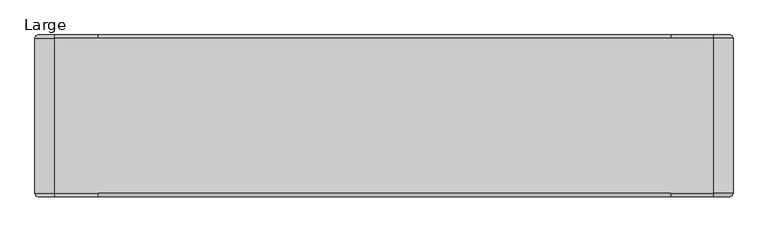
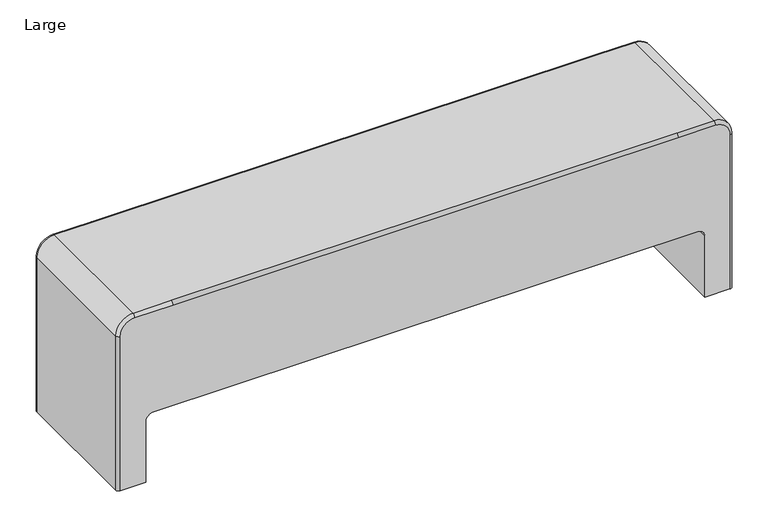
"""IFC4 building model written with IfcOpenShell, lengths in millimetres: furniture geometry, Steelcase Coalesse - Davos - Seating - Bench : Large."""

from ifc_helpers import new_model, si_unit, point, frame, frame_2d, origin, origin_with_axes, place, context, project, spatial, polyline, circle_curve, ellipse_curve, trimmed, segment, composite_curve, outline, extrude, source, transform, mapped, element, save
from ifc_brep_helpers import plane_surface, cylinder_surface, revolved_surface, advanced_brep


def large_22a922e8(model_context):
    return source(origin(), model_context, "Body", "SolidModel", [
        extrude(outline(composite_curve([segment(trimmed(circle_curve(frame_2d((-619.0274767, 196.051701)), 5.08), [point((-619.0274767, 201.131701))], [point((-613.9474767, 196.051701))], False, "CARTESIAN"), True, "CONTINUOUS"), segment(polyline([(-613.9474767, 196.051701), (-613.9474767, 155.411701)]), True, "CONTINUOUS"), segment(trimmed(circle_curve(frame_2d((-619.0274767, 155.411701)), 5.08), [point((-613.9474767, 155.411701))], [point((-619.0274767, 150.331701))], False, "CARTESIAN"), True, "CONTINUOUS"), segment(polyline([(-619.0274767, 150.331701), (-634.2621476, 150.331701)]), True, "CONTINUOUS"), segment(trimmed(circle_curve(frame_2d((-634.2621476, 155.411701)), 5.08), [point((-634.2621476, 150.331701))], [point((-639.3421476, 155.411701))], False, "CARTESIAN"), True, "CONTINUOUS"), segment(polyline([(-639.3421476, 155.411701), (-639.3421476, 196.051701)]), True, "CONTINUOUS"), segment(trimmed(circle_curve(frame_2d((-634.2621476, 196.051701)), 5.08), [point((-639.3421476, 196.051701))], [point((-634.2621476, 201.131701))], False, "CARTESIAN"), True, "CONTINUOUS"), segment(polyline([(-634.2621476, 201.131701), (-619.0274767, 201.131701)]), True, "CONTINUOUS")], self_intersect=False)), origin_with_axes(), (0.0, 0.0, 1.0), 3.4040124),
        extrude(outline(composite_curve([segment(trimmed(circle_curve(frame_2d((-619.0274767, -81.4021908)), 5.08), [point((-619.0274767, -76.3221908))], [point((-613.9474767, -81.4021908))], False, "CARTESIAN"), True, "CONTINUOUS"), segment(polyline([(-613.9474767, -81.4021908), (-613.9474767, -122.0421908)]), True, "CONTINUOUS"), segment(trimmed(circle_curve(frame_2d((-619.0274767, -122.0421908)), 5.08), [point((-613.9474767, -122.0421908))], [point((-619.0274767, -127.1221908))], False, "CARTESIAN"), True, "CONTINUOUS"), segment(polyline([(-619.0274767, -127.1221908), (-634.2621476, -127.1221908)]), True, "CONTINUOUS"), segment(trimmed(circle_curve(frame_2d((-634.2621476, -122.0421908)), 5.08), [point((-634.2621476, -127.1221908))], [point((-639.3421476, -122.0421908))], False, "CARTESIAN"), True, "CONTINUOUS"), segment(polyline([(-639.3421476, -122.0421908), (-639.3421476, -81.4021908)]), True, "CONTINUOUS"), segment(trimmed(circle_curve(frame_2d((-634.2621476, -81.4021908)), 5.08), [point((-639.3421476, -81.4021908))], [point((-634.2621476, -76.3221908))], False, "CARTESIAN"), True, "CONTINUOUS"), segment(polyline([(-634.2621476, -76.3221908), (-619.0274767, -76.3221908)]), True, "CONTINUOUS")], self_intersect=False)), origin_with_axes(), (0.0, 0.0, 1.0), 3.4040124),
        extrude(outline(composite_curve([segment(trimmed(circle_curve(frame_2d((818.8236579, 196.051701)), 5.08), [point((818.8236579, 201.131701))], [point((823.9036579, 196.051701))], False, "CARTESIAN"), True, "CONTINUOUS"), segment(polyline([(823.9036579, 196.051701), (823.9036579, 155.411701)]), True, "CONTINUOUS"), segment(trimmed(circle_curve(frame_2d((818.8236579, 155.411701)), 5.08), [point((823.9036579, 155.411701))], [point((818.8236579, 150.331701))], False, "CARTESIAN"), True, "CONTINUOUS"), segment(polyline([(818.8236579, 150.331701), (803.5889871, 150.331701)]), True, "CONTINUOUS"), segment(trimmed(circle_curve(frame_2d((803.5889871, 155.411701)), 5.08), [point((803.5889871, 150.331701))], [point((798.5089871, 155.411701))], False, "CARTESIAN"), True, "CONTINUOUS"), segment(polyline([(798.5089871, 155.411701), (798.5089871, 196.051701)]), True, "CONTINUOUS"), segment(trimmed(circle_curve(frame_2d((803.5889871, 196.051701)), 5.08), [point((798.5089871, 196.051701))], [point((803.5889871, 201.131701))], False, "CARTESIAN"), True, "CONTINUOUS"), segment(polyline([(803.5889871, 201.131701), (818.8236579, 201.131701)]), True, "CONTINUOUS")], self_intersect=False)), origin_with_axes(), (0.0, 0.0, 1.0), 3.4040124),
        extrude(outline(composite_curve([segment(trimmed(circle_curve(frame_2d((818.8236579, -81.4021908)), 5.08), [point((818.8236579, -76.3221908))], [point((823.9036579, -81.4021908))], False, "CARTESIAN"), True, "CONTINUOUS"), segment(polyline([(823.9036579, -81.4021908), (823.9036579, -122.0421908)]), True, "CONTINUOUS"), segment(trimmed(circle_curve(frame_2d((818.8236579, -122.0421908)), 5.08), [point((823.9036579, -122.0421908))], [point((818.8236579, -127.1221908))], False, "CARTESIAN"), True, "CONTINUOUS"), segment(polyline([(818.8236579, -127.1221908), (803.5889871, -127.1221908)]), True, "CONTINUOUS"), segment(trimmed(circle_curve(frame_2d((803.5889871, -122.0421908)), 5.08), [point((803.5889871, -127.1221908))], [point((798.5089871, -122.0421908))], False, "CARTESIAN"), True, "CONTINUOUS"), segment(polyline([(798.5089871, -122.0421908), (798.5089871, -81.4021908)]), True, "CONTINUOUS"), segment(trimmed(circle_curve(frame_2d((803.5889871, -81.4021908)), 5.08), [point((798.5089871, -81.4021908))], [point((803.5889871, -76.3221908))], False, "CARTESIAN"), True, "CONTINUOUS"), segment(polyline([(803.5889871, -76.3221908), (818.8236579, -76.3221908)]), True, "CONTINUOUS")], self_intersect=False)), origin_with_axes(), (0.0, 0.0, 1.0), 3.4040124),
        advanced_brep(
        [(-574.5619104, 211.4525251, 180.1955599), (-593.6119104, 211.4525251, 161.1455599), (-593.6119104, 211.4525251, 3.4040124), (-655.9944896, 211.4525251, 3.4040124), (-655.9944896, 211.4525251, 404.0231514), (-620.4343177, 211.4525251, 439.5833234), (-526.2304682, 211.4525251, 439.5833234), (712.8696242, 211.4525251, 439.5833234), (804.202078, 211.4525251, 439.5833234), (839.76225, 211.4525251, 404.0231514), (839.76225, 211.4525251, 3.4040124), (778.1734208, 211.4525251, 3.4040124), (778.1734208, 211.4525251, 161.1455599), (759.1234208, 211.4525251, 180.1955599), (759.1234208, -138.4442299, 180.1955599), (778.1734208, -138.4442299, 161.1455599), (778.1734208, -138.4442299, 3.4040124), (839.76225, -138.4442299, 3.4040124), (839.76225, -138.4442299, 404.0231514), (804.202078, -138.4442299, 439.5833234), (712.8696242, -138.4442299, 439.5833234), (-526.2304682, -138.4442299, 439.5833234), (-620.4343177, -138.4442299, 439.5833234), (-655.9944896, -138.4442299, 404.0231514), (-655.9944896, -138.4442299, 3.4040124), (-593.6119104, -138.4442299, 3.4040124), (-593.6119104, -138.4442299, 161.1455599), (-574.5619104, -138.4442299, 180.1955599), (712.8696242, -130.8242299, 447.2033234), (-526.2304682, -130.8242299, 447.2033234), (804.202078, -130.8242299, 447.2033234), (804.202078, 203.8325251, 447.2033234), (712.8696242, 203.8325251, 447.2033234), (-526.2304682, 203.8325251, 447.2033234), (-620.4343177, 203.8325251, 447.2033234), (-620.4343177, -130.8242299, 447.2033234), (847.38225, -130.8242299, 404.0231514), (847.38225, 203.8325251, 404.0231514), (847.38225, 203.8325251, 3.4040124), (847.38225, -130.8242299, 3.4040124), (-663.6144896, 203.8325251, 404.0231514), (-663.6144896, -130.8242299, 404.0231514), (-663.6144896, -130.8242299, 3.4040124), (-663.6144896, 203.8325251, 3.4040124)],
        [
            (0, 1, circle_curve(frame((-574.5619104, 211.4525251, 161.1455599), z_axis=(0.0, -1.0, 0.0), x_axis=(1.0, 0.0, 0.0)), 19.05)),
            (1, 2),
            (2, 3),
            (3, 4),
            (4, 5, circle_curve(frame((-620.4343177, 211.4525251, 404.0231514), z_axis=(0.0, 1.0, 0.0), x_axis=(0.0, 0.0, 1.0)), 35.560172)),
            (5, 6),
            (6, 7),
            (7, 8),
            (8, 9, circle_curve(frame((804.202078, 211.4525251, 404.0231514), z_axis=(0.0, 1.0, 0.0), x_axis=(0.0, 0.0, 1.0)), 35.560172)),
            (9, 10),
            (10, 11),
            (11, 12),
            (12, 13, circle_curve(frame((759.1234208, 211.4525251, 161.1455599), z_axis=(0.0, -1.0, 0.0), x_axis=(1.0, 0.0, 0.0)), 19.05)),
            (13, 0),
            (14, 15, circle_curve(frame((759.1234208, -138.4442299, 161.1455599), z_axis=(0.0, 1.0, 0.0), x_axis=(1.0, 0.0, 0.0)), 19.05)),
            (15, 16),
            (16, 17),
            (17, 18),
            (18, 19, circle_curve(frame((804.202078, -138.4442299, 404.0231514), z_axis=(0.0, -1.0, 0.0), x_axis=(0.0, 0.0, 1.0)), 35.560172)),
            (19, 20),
            (20, 21),
            (21, 22),
            (22, 23, circle_curve(frame((-620.4343177, -138.4442299, 404.0231514), z_axis=(0.0, -1.0, 0.0), x_axis=(0.0, 0.0, 1.0)), 35.560172)),
            (23, 24),
            (24, 25),
            (25, 26),
            (26, 27, circle_curve(frame((-574.5619104, -138.4442299, 161.1455599), z_axis=(0.0, 1.0, 0.0), x_axis=(1.0, 0.0, 0.0)), 19.05)),
            (27, 14),
            (13, 14),
            (27, 0),
            (20, 28, circle_curve(frame((712.8696242, -130.8242299, 439.5833234), z_axis=(-1.0, 0.0, 0.0), x_axis=(0.0, 0.0, 1.0)), 7.62)),
            (28, 29),
            (29, 21, circle_curve(frame((-526.2304682, -130.8242299, 439.5833234), z_axis=(1.0, 0.0, 0.0), x_axis=(0.0, 0.0, 1.0)), 7.62)),
            (28, 30),
            (30, 31),
            (31, 32),
            (32, 33),
            (33, 34),
            (34, 35),
            (35, 29),
            (32, 7, circle_curve(frame((712.8696242, 203.8325251, 439.5833234), z_axis=(-1.0, 0.0, 0.0), x_axis=(0.0, 0.0, 1.0)), 7.62)),
            (6, 33, circle_curve(frame((-526.2304682, 203.8325251, 439.5833234), z_axis=(1.0, 0.0, 0.0), x_axis=(0.0, 0.0, 1.0)), 7.62)),
            (19, 30, circle_curve(frame((804.202078, -130.8242299, 439.5833234), z_axis=(-1.0, 0.0, 0.0), x_axis=(0.0, 0.0, -1.0)), 7.62)),
            (31, 8, circle_curve(frame((804.202078, 203.8325251, 439.5833234), z_axis=(-1.0, 0.0, 0.0), x_axis=(0.0, 0.0, -1.0)), 7.62)),
            (18, 36, circle_curve(frame((839.76225, -130.8242299, 404.0231514), z_axis=(0.0, 0.0, 1.0), x_axis=(-1.0, 0.0, 0.0)), 7.62)),
            (36, 30, circle_curve(frame((804.202078, -130.8242299, 404.0231514), z_axis=(0.0, -1.0, 0.0), x_axis=(0.0, 0.0, 1.0)), 43.180172)),
            (36, 37),
            (37, 31, circle_curve(frame((804.202078, 203.8325251, 404.0231514), z_axis=(0.0, -1.0, 0.0), x_axis=(0.0, 0.0, 1.0)), 43.180172)),
            (37, 9, circle_curve(frame((839.76225, 203.8325251, 404.0231514), z_axis=(0.0, 0.0, 1.0), x_axis=(-1.0, 0.0, 0.0)), 7.62)),
            (16, 11),
            (10, 38, circle_curve(frame((839.76225, 203.8325251, 3.4040124), z_axis=(0.0, 0.0, -1.0), x_axis=(-1.0, 0.0, 0.0)), 7.62)),
            (38, 39),
            (39, 17, circle_curve(frame((839.76225, -130.8242299, 3.4040124), z_axis=(0.0, 0.0, -1.0), x_axis=(-1.0, 0.0, 0.0)), 7.62)),
            (39, 36),
            (38, 37),
            (5, 34, circle_curve(frame((-620.4343177, 203.8325251, 439.5833234), z_axis=(1.0, 0.0, 0.0), x_axis=(0.0, 0.0, 1.0)), 7.62)),
            (35, 22, circle_curve(frame((-620.4343177, -130.8242299, 439.5833234), z_axis=(1.0, 0.0, 0.0), x_axis=(0.0, 0.0, 1.0)), 7.62)),
            (4, 40, circle_curve(frame((-655.9944896, 203.8325251, 404.0231514), z_axis=(0.0, 0.0, 1.0), x_axis=(-1.0, 0.0, 0.0)), 7.62)),
            (40, 34, circle_curve(frame((-620.4343177, 203.8325251, 404.0231514), z_axis=(0.0, 1.0, 0.0), x_axis=(0.0, 0.0, 1.0)), 43.180172)),
            (40, 41),
            (41, 35, circle_curve(frame((-620.4343177, -130.8242299, 404.0231514), z_axis=(0.0, 1.0, 0.0), x_axis=(0.0, 0.0, 1.0)), 43.180172)),
            (41, 23, circle_curve(frame((-655.9944896, -130.8242299, 404.0231514), z_axis=(0.0, 0.0, 1.0), x_axis=(-1.0, 0.0, 0.0)), 7.62)),
            (2, 25),
            (24, 42, circle_curve(frame((-655.9944896, -130.8242299, 3.4040124), z_axis=(0.0, 0.0, -1.0), x_axis=(-1.0, 0.0, 0.0)), 7.62)),
            (42, 43),
            (43, 3, circle_curve(frame((-655.9944896, 203.8325251, 3.4040124), z_axis=(0.0, 0.0, -1.0), x_axis=(-1.0, 0.0, 0.0)), 7.62)),
            (43, 40),
            (42, 41),
            (26, 1),
            (15, 12),
        ],
        [
            plane_surface(frame((712.8696242, 211.4525251, 437.6781514), z_axis=(0.0, 1.0, 0.0), x_axis=(0.0, 0.0, -1.0))),
            plane_surface(frame((712.8696242, -138.4442299, 437.6781514), z_axis=(0.0, -1.0, 0.0), x_axis=(0.0, 0.0, 1.0))),
            plane_surface(frame((712.8696242, 211.4525251, 180.1955599), z_axis=(0.0, 0.0, -1.0), x_axis=(0.0, -1.0, 0.0))),
            cylinder_surface(frame((712.8696242, -130.8242299, 439.5833234), z_axis=(-1.0, 0.0, 0.0), x_axis=(0.0, 0.0, 1.0)), 7.62),
            plane_surface(frame((-526.2304682, -130.8242299, 447.2033234), z_axis=(0.0, 0.0, 1.0), x_axis=(1.0, 0.0, 0.0))),
            cylinder_surface(frame((712.8696242, 203.8325251, 439.5833234), z_axis=(-1.0, 0.0, 0.0), x_axis=(0.0, 0.0, 1.0)), 7.62),
            cylinder_surface(frame((712.8696242, -130.8242299, 439.5833234), z_axis=(-1.0, 0.0, 0.0), x_axis=(0.0, 0.0, -1.0)), 7.62),
            cylinder_surface(frame((712.8696242, 203.8325251, 439.5833234), z_axis=(-1.0, 0.0, 0.0), x_axis=(0.0, 0.0, -1.0)), 7.62),
            revolved_surface(trimmed(ellipse_curve(frame((804.202078, -130.8242299, 439.5833234), z_axis=(-1.0, 0.0, 0.0), x_axis=(0.0, 0.0, -1.0)), 7.62, 7.62), [point((804.202078, -138.4442299, 439.5833234))], [point((804.202078, -130.8242299, 447.2033234))], True, "CARTESIAN"), (804.202078, 228.8781826, 404.0231514), (0.0, 1.0, 0.0)),
            cylinder_surface(frame((804.202078, 228.8781826, 404.0231514), z_axis=(0.0, 1.0, 0.0), x_axis=(0.0, 0.0, 1.0)), 43.180172),
            revolved_surface(trimmed(ellipse_curve(frame((804.202078, 203.8325251, 439.5833234), z_axis=(-1.0, 0.0, 0.0), x_axis=(0.0, 0.0, -1.0)), 7.62, 7.62), [point((804.202078, 203.8325251, 447.2033234))], [point((804.202078, 211.4525251, 439.5833234))], True, "CARTESIAN"), (804.202078, 228.8781826, 404.0231514), (0.0, 1.0, 0.0)),
            plane_surface(frame((834.682078, 228.8781826, 3.4040124), z_axis=(0.0, 0.0, -1.0), x_axis=(0.0, 1.0, 0.0))),
            cylinder_surface(frame((839.76225, -130.8242299, 404.0231514), z_axis=(0.0, 0.0, 1.0), x_axis=(-1.0, 0.0, 0.0)), 7.62),
            plane_surface(frame((847.38225, -130.8242299, 404.0231514), z_axis=(1.0, 0.0, 0.0), x_axis=(0.0, 0.0, -1.0))),
            cylinder_surface(frame((839.76225, 203.8325251, 404.0231514), z_axis=(0.0, 0.0, 1.0), x_axis=(-1.0, 0.0, 0.0)), 7.62),
            cylinder_surface(frame((-526.2304682, 203.8325251, 439.5833234), z_axis=(1.0, 0.0, 0.0), x_axis=(0.0, 0.0, 1.0)), 7.62),
            cylinder_surface(frame((-526.2304682, -130.8242299, 439.5833234), z_axis=(1.0, 0.0, 0.0), x_axis=(0.0, 0.0, 1.0)), 7.62),
            revolved_surface(trimmed(ellipse_curve(frame((-620.4343177, 203.8325251, 439.5833234), z_axis=(1.0, 0.0, 0.0), x_axis=(0.0, 0.0, 1.0)), 7.62, 7.62), [point((-620.4343177, 211.4525251, 439.5833234))], [point((-620.4343177, 203.8325251, 447.2033234))], True, "CARTESIAN"), (-620.4343177, 228.8781826, 404.0231514), (0.0, -1.0, 0.0)),
            cylinder_surface(frame((-620.4343177, 228.8781826, 404.0231514), z_axis=(0.0, -1.0, 0.0), x_axis=(0.0, 0.0, 1.0)), 43.180172),
            revolved_surface(trimmed(ellipse_curve(frame((-620.4343177, -130.8242299, 439.5833234), z_axis=(1.0, 0.0, 0.0), x_axis=(0.0, 0.0, 1.0)), 7.62, 7.62), [point((-620.4343177, -130.8242299, 447.2033234))], [point((-620.4343177, -138.4442299, 439.5833234))], True, "CARTESIAN"), (-620.4343177, 228.8781826, 404.0231514), (0.0, -1.0, 0.0)),
            plane_surface(frame((-650.9143177, 228.8781826, 3.4040124), z_axis=(0.0, 0.0, -1.0), x_axis=(0.0, 1.0, 0.0))),
            cylinder_surface(frame((-655.9944896, 203.8325251, 404.0231514), z_axis=(0.0, 0.0, 1.0), x_axis=(-1.0, 0.0, 0.0)), 7.62),
            plane_surface(frame((-663.6144896, 203.8325251, 404.0231514), z_axis=(-1.0, 0.0, 0.0), x_axis=(0.0, 0.0, -1.0))),
            cylinder_surface(frame((-655.9944896, -130.8242299, 404.0231514), z_axis=(0.0, 0.0, 1.0), x_axis=(-1.0, 0.0, 0.0)), 7.62),
            revolved_surface(polyline([(-555.5119104, -138.4442299, 161.1455599), (-555.5119104, 211.45252509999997, 161.1455599)]), (-574.5619104, -138.4442299, 161.1455599), (0.0, -1.0, 0.0)),
            plane_surface(frame((-593.6119104, 211.4525251, 161.1455599), z_axis=(1.0, 0.0, 0.0), x_axis=(0.0, -1.0, 0.0))),
            plane_surface(frame((778.1734208, 211.4525251, 3.4040124), z_axis=(-1.0, 0.0, 0.0), x_axis=(0.0, -1.0, 0.0))),
            revolved_surface(polyline([(778.1734207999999, -138.44422989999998, 161.1455599), (778.1734207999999, 211.4525251, 161.1455599)]), (759.1234208, 216.2403236, 161.1455599), (0.0, -1.0, 0.0)),
        ],
        [
            (0, [[1, 2, 3, 4, 5, 6, 7, 8, 9, 10, 11, 12, 13, 14]]),
            (1, [[15, 16, 17, 18, 19, 20, 21, 22, 23, 24, 25, 26, 27, 28]]),
            (2, [[-14, 29, -28, 30]]),
            (3, [[-21, 31, 32, 33]]),
            (4, [[-32, 34, 35, 36, 37, 38, 39, 40]]),
            (5, [[-37, 41, -7, 42]]),
            (6, [[-20, 43, -34, -31]]),
            (7, [[-36, 44, -8, -41]]),
            (8, [[-19, 45, 46, -43]]),
            (9, [[-35, -46, 47, 48]]),
            (10, [[-44, -48, 49, -9]]),
            (11, [[-17, 50, -11, 51, 52, 53]]),
            (12, [[-18, -53, 54, -45]]),
            (13, [[-47, -54, -52, 55]]),
            (14, [[-10, -49, -55, -51]]),
            (15, [[-6, 56, -38, -42]]),
            (16, [[-40, 57, -22, -33]]),
            (17, [[-5, 58, 59, -56]]),
            (18, [[-39, -59, 60, 61]]),
            (19, [[-57, -61, 62, -23]]),
            (20, [[-3, 63, -25, 64, 65, 66]]),
            (21, [[-4, -66, 67, -58]]),
            (22, [[-60, -67, -65, 68]]),
            (23, [[-24, -62, -68, -64]]),
            (24, [[-1, -30, -27, 69]]),
            (25, [[-2, -69, -26, -63]]),
            (26, [[-12, -50, -16, 70]]),
            (27, [[-13, -70, -15, -29]]),
        ],
    ),
    ])


if __name__ == "__main__":
    model = new_model("IFC4")
    model_context = context("Model", 3, world=origin())
    ifc_project = project(units=[si_unit("LENGTHUNIT", "METRE", prefix="MILLI")], contexts=[model_context])
    site = spatial("IfcSite", under=ifc_project)
    building = spatial("IfcBuilding", under=site)
    placement = place(None, origin())
    large_shape = large_22a922e8(model_context)
    element("IfcFurniture", 1, ObjectType="Steelcase Coalesse - Davos - Seating - Bench : Large", at=placement, inside=building, context=model_context, shape_type="MappedRepresentation", body=[
        mapped(large_shape, transform((0.0, 0.0, 0.0), x_axis=(1.0, 0.0, 0.0), y_axis=(0.0, 1.0, 0.0), z_axis=(0.0, 0.0, 1.0))),
    ])
    save(model, "model.ifc")
